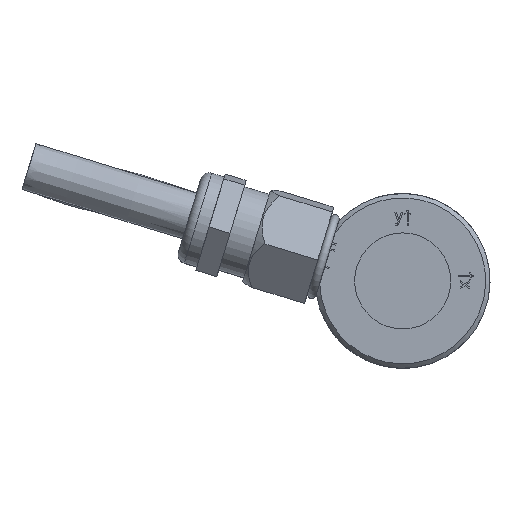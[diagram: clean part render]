
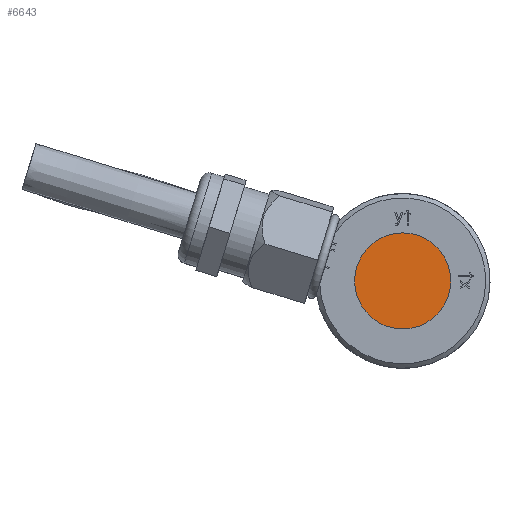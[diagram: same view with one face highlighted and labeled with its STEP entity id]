
A CAD part, left-side view. The second image highlights one B-rep face of the part: STEP entity #6643.
In plain terms, the highlighted planar face has unit normal (-1, 0, 0).
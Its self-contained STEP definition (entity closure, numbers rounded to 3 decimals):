
#2251=PLANE('',#6923);
#2824=VERTEX_POINT('',#9652);
#2946=CIRCLE('',#6921,5.5);
#3698=EDGE_CURVE('',#2824,#2824,#2946,.T.);
#5176=ORIENTED_EDGE('',*,*,#3698,.T.);
#5884=EDGE_LOOP('',(#5176));
#6282=FACE_BOUND('',#5884,.T.);
#6643=ADVANCED_FACE('',(#6282),#2251,.F.);
#6921=AXIS2_PLACEMENT_3D('',#9651,#10998,#10999);
#6923=AXIS2_PLACEMENT_3D('',#9655,#11002,$);
#9651=CARTESIAN_POINT('',(-29.,0.,0.));
#9652=CARTESIAN_POINT('',(-29.,0.,-5.5));
#9655=CARTESIAN_POINT('',(-29.,0.,0.));
#10998=DIRECTION('',(-1.,0.,0.));
#10999=DIRECTION('',(0.,0.,-5.5));
#11002=DIRECTION('',(1.,0.,0.));
